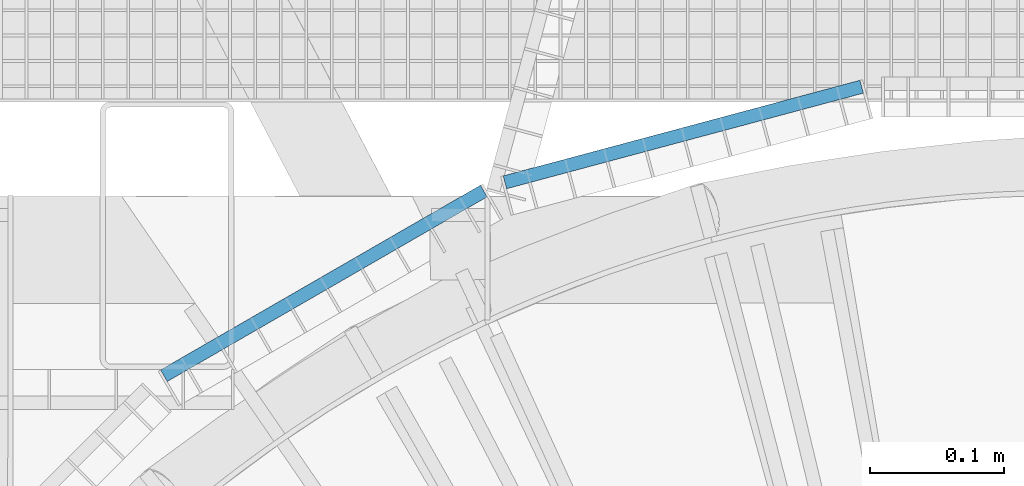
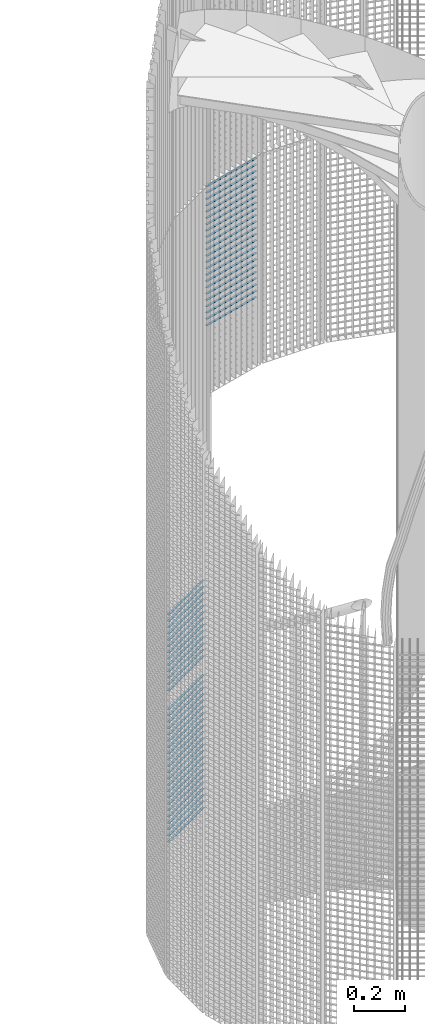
# One storey, part 326 of 1183: 58 beams, 2 elements without a shape of their own.
"""IFC2X3 building model written with IfcOpenShell, lengths in millimetres."""

from ifc_helpers import new_model, si_unit, frame, origin_with_axes, origin_2d_with_axis, place, context, subcontext, project, spatial, rectangle, extrude, material, type_object, element, aggregate, save


model = new_model("IFC2X3")

# Units and contexts
model_context = context("Model", 3, precision=1e-05, world=origin_with_axes())
body_context = subcontext(model_context, "Body", "Model", "MODEL_VIEW")
ifc_project = project(units=[si_unit("LENGTHUNIT", "METRE", prefix="MILLI"), si_unit("AREAUNIT", "SQUARE_METRE"), si_unit("VOLUMEUNIT", "CUBIC_METRE"), si_unit("MASSUNIT", "GRAM", prefix="KILO"), si_unit("TIMEUNIT", "SECOND"), si_unit("PLANEANGLEUNIT", "RADIAN"), si_unit("SOLIDANGLEUNIT", "STERADIAN"), si_unit("THERMODYNAMICTEMPERATUREUNIT", "DEGREE_CELSIUS"), si_unit("LUMINOUSINTENSITYUNIT", "LUMEN")], contexts=[model_context])

# Site, building, storey
site_placement = place(None, origin_with_axes())
site = spatial("IfcSite", under=ifc_project, at=site_placement, Name="Undefined", CompositionType="ELEMENT")
building_placement = place(site_placement, origin_with_axes())
building = spatial("IfcBuilding", under=site, at=building_placement, Name="Undefined", CompositionType="ELEMENT")
storey_placement = place(building_placement, origin_with_axes())
storey = spatial("IfcBuildingStorey", under=building, at=storey_placement, Name="Undefined", CompositionType="ELEMENT", Elevation=0.0)

# Assembly, beams
assembly_1_placement = place(storey_placement, origin_with_axes())
assembly_1 = element("IfcElementAssembly", 1, at=assembly_1_placement, inside=storey, Name="BORDURE", AssemblyPlace="NOTDEFINED", PredefinedType="NOTDEFINED")
ifc_material = material(Name="STEEL/S235JR")
beam_type = type_object("IfcBeamType", Name="PL2*10", PredefinedType="NOTDEFINED")
beam_1_placement = place(assembly_1_placement, frame((-437.231955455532, 1033.29996828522, 749.999999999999), z_axis=(-0.49999999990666, 0.866025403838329, 0.0), x_axis=(-0.866025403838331, -0.499999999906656, 0.0)))
beam_1 = element("IfcBeam", 2, at=beam_1_placement, type_object=beam_type, material=ifc_material, Name="ENTRETOISE", context=body_context, shape_type="SweptSolid", body=[
    extrude(rectangle(XDim=2.0, YDim=10.0, at=origin_2d_with_axis()), frame((275.999999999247, 9.09494701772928e-13, 1.53210777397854e-14), z_axis=(-1.0, 0.0, 0.0), x_axis=(0.0, -1.0, 0.0)), (0.0, 0.0, 1.0), 276.0),
])
beam_2_placement = place(assembly_1_placement, frame((-437.231955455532, 1033.29996828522, 659.999999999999), z_axis=(-0.49999999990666, 0.866025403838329, 0.0), x_axis=(-0.866025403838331, -0.499999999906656, 0.0)))
beam_2 = element("IfcBeam", 3, at=beam_2_placement, type_object=beam_type, material=ifc_material, Name="ENTRETOISE", context=body_context, shape_type="SweptSolid", body=[
    extrude(rectangle(XDim=2.0, YDim=10.0, at=origin_2d_with_axis()), frame((275.999999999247, 9.09494701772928e-13, 1.53210777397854e-14), z_axis=(-1.0, 0.0, 0.0), x_axis=(0.0, -1.0, 0.0)), (0.0, 0.0, 1.0), 276.0),
])
beam_3_placement = place(assembly_1_placement, frame((-437.231955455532, 1033.29996828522, 629.999999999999), z_axis=(-0.49999999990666, 0.866025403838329, 0.0), x_axis=(-0.866025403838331, -0.499999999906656, 0.0)))
beam_3 = element("IfcBeam", 4, at=beam_3_placement, type_object=beam_type, material=ifc_material, Name="ENTRETOISE", context=body_context, shape_type="SweptSolid", body=[
    extrude(rectangle(XDim=2.0, YDim=10.0, at=origin_2d_with_axis()), frame((275.999999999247, 9.09494701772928e-13, 1.53210777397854e-14), z_axis=(-1.0, 0.0, 0.0), x_axis=(0.0, -1.0, 0.0)), (0.0, 0.0, 1.0), 276.0),
])
beam_4_placement = place(assembly_1_placement, frame((-437.231955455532, 1033.29996828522, 779.999999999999), z_axis=(-0.49999999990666, 0.866025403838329, 0.0), x_axis=(-0.866025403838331, -0.499999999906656, 0.0)))
beam_4 = element("IfcBeam", 5, at=beam_4_placement, type_object=beam_type, material=ifc_material, Name="ENTRETOISE", context=body_context, shape_type="SweptSolid", body=[
    extrude(rectangle(XDim=2.0, YDim=10.0, at=origin_2d_with_axis()), frame((275.999999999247, 9.09494701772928e-13, 1.53210777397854e-14), z_axis=(-1.0, 0.0, 0.0), x_axis=(0.0, -1.0, 0.0)), (0.0, 0.0, 1.0), 276.0),
])
beam_5_placement = place(assembly_1_placement, frame((-437.231955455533, 1033.29996828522, 599.999999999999), z_axis=(-0.49999999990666, 0.866025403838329, 0.0), x_axis=(-0.866025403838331, -0.499999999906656, 0.0)))
beam_5 = element("IfcBeam", 6, at=beam_5_placement, type_object=beam_type, material=ifc_material, Name="ENTRETOISE", context=body_context, shape_type="SweptSolid", body=[
    extrude(rectangle(XDim=2.0, YDim=10.0, at=origin_2d_with_axis()), frame((275.999999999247, 9.09494701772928e-13, 1.53210777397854e-14), z_axis=(-1.0, 0.0, 0.0), x_axis=(0.0, -1.0, 0.0)), (0.0, 0.0, 1.0), 276.0),
])
beam_6_placement = place(assembly_1_placement, frame((-437.231955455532, 1033.29996828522, 809.999999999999), z_axis=(-0.49999999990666, 0.866025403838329, 0.0), x_axis=(-0.866025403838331, -0.499999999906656, 0.0)))
beam_6 = element("IfcBeam", 7, at=beam_6_placement, type_object=beam_type, material=ifc_material, Name="ENTRETOISE", context=body_context, shape_type="SweptSolid", body=[
    extrude(rectangle(XDim=2.0, YDim=10.0, at=origin_2d_with_axis()), frame((275.999999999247, 9.09494701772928e-13, 1.53210777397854e-14), z_axis=(-1.0, 0.0, 0.0), x_axis=(0.0, -1.0, 0.0)), (0.0, 0.0, 1.0), 276.0),
])
beam_7_placement = place(assembly_1_placement, frame((-437.231955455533, 1033.29996828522, 569.999999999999), z_axis=(-0.49999999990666, 0.866025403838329, 0.0), x_axis=(-0.866025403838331, -0.499999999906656, 0.0)))
beam_7 = element("IfcBeam", 8, at=beam_7_placement, type_object=beam_type, material=ifc_material, Name="ENTRETOISE", context=body_context, shape_type="SweptSolid", body=[
    extrude(rectangle(XDim=2.0, YDim=10.0, at=origin_2d_with_axis()), frame((275.999999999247, 9.09494701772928e-13, 1.53210777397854e-14), z_axis=(-1.0, 0.0, 0.0), x_axis=(0.0, -1.0, 0.0)), (0.0, 0.0, 1.0), 276.0),
])
beam_8_placement = place(assembly_1_placement, frame((-437.231955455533, 1033.29996828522, 539.999999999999), z_axis=(-0.49999999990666, 0.866025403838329, 0.0), x_axis=(-0.866025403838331, -0.499999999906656, 0.0)))
beam_8 = element("IfcBeam", 9, at=beam_8_placement, type_object=beam_type, material=ifc_material, Name="ENTRETOISE", context=body_context, shape_type="SweptSolid", body=[
    extrude(rectangle(XDim=2.0, YDim=10.0, at=origin_2d_with_axis()), frame((275.999999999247, 9.09494701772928e-13, 1.53210777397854e-14), z_axis=(-1.0, 0.0, 0.0), x_axis=(0.0, -1.0, 0.0)), (0.0, 0.0, 1.0), 276.0),
])
beam_9_placement = place(assembly_1_placement, frame((-437.231955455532, 1033.29996828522, 839.999999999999), z_axis=(-0.49999999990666, 0.866025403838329, 0.0), x_axis=(-0.866025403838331, -0.499999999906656, 0.0)))
beam_9 = element("IfcBeam", 10, at=beam_9_placement, type_object=beam_type, material=ifc_material, Name="ENTRETOISE", context=body_context, shape_type="SweptSolid", body=[
    extrude(rectangle(XDim=2.0, YDim=10.0, at=origin_2d_with_axis()), frame((275.999999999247, 9.09494701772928e-13, 1.53210777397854e-14), z_axis=(-1.0, 0.0, 0.0), x_axis=(0.0, -1.0, 0.0)), (0.0, 0.0, 1.0), 276.0),
])
beam_10_placement = place(assembly_1_placement, frame((-437.231955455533, 1033.29996828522, 509.999999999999), z_axis=(-0.49999999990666, 0.866025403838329, 0.0), x_axis=(-0.866025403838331, -0.499999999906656, 0.0)))
beam_10 = element("IfcBeam", 11, at=beam_10_placement, type_object=beam_type, material=ifc_material, Name="ENTRETOISE", context=body_context, shape_type="SweptSolid", body=[
    extrude(rectangle(XDim=2.0, YDim=10.0, at=origin_2d_with_axis()), frame((275.999999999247, 9.09494701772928e-13, 1.53210777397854e-14), z_axis=(-1.0, 0.0, 0.0), x_axis=(0.0, -1.0, 0.0)), (0.0, 0.0, 1.0), 276.0),
])
beam_11_placement = place(assembly_1_placement, frame((-437.231955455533, 1033.29996828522, 479.999999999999), z_axis=(-0.49999999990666, 0.866025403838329, 0.0), x_axis=(-0.866025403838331, -0.499999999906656, 0.0)))
beam_11 = element("IfcBeam", 12, at=beam_11_placement, type_object=beam_type, material=ifc_material, Name="ENTRETOISE", context=body_context, shape_type="SweptSolid", body=[
    extrude(rectangle(XDim=2.0, YDim=10.0, at=origin_2d_with_axis()), frame((275.999999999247, 9.09494701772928e-13, 1.53210777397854e-14), z_axis=(-1.0, 0.0, 0.0), x_axis=(0.0, -1.0, 0.0)), (0.0, 0.0, 1.0), 276.0),
])
beam_12_placement = place(assembly_1_placement, frame((-437.231955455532, 1033.29996828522, 869.999999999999), z_axis=(-0.49999999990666, 0.866025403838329, 0.0), x_axis=(-0.866025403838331, -0.499999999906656, 0.0)))
beam_12 = element("IfcBeam", 13, at=beam_12_placement, type_object=beam_type, material=ifc_material, Name="ENTRETOISE", context=body_context, shape_type="SweptSolid", body=[
    extrude(rectangle(XDim=2.0, YDim=10.0, at=origin_2d_with_axis()), frame((275.999999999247, 9.09494701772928e-13, 1.53210777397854e-14), z_axis=(-1.0, 0.0, 0.0), x_axis=(0.0, -1.0, 0.0)), (0.0, 0.0, 1.0), 276.0),
])
beam_13_placement = place(assembly_1_placement, frame((-437.231955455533, 1033.29996828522, 449.999999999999), z_axis=(-0.49999999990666, 0.866025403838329, 0.0), x_axis=(-0.866025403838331, -0.499999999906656, 0.0)))
beam_13 = element("IfcBeam", 14, at=beam_13_placement, type_object=beam_type, material=ifc_material, Name="ENTRETOISE", context=body_context, shape_type="SweptSolid", body=[
    extrude(rectangle(XDim=2.0, YDim=10.0, at=origin_2d_with_axis()), frame((275.999999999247, 9.09494701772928e-13, 1.53210777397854e-14), z_axis=(-1.0, 0.0, 0.0), x_axis=(0.0, -1.0, 0.0)), (0.0, 0.0, 1.0), 276.0),
])
beam_14_placement = place(assembly_1_placement, frame((-437.231955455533, 1033.29996828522, 419.999999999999), z_axis=(-0.49999999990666, 0.866025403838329, 0.0), x_axis=(-0.866025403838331, -0.499999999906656, 0.0)))
beam_14 = element("IfcBeam", 15, at=beam_14_placement, type_object=beam_type, material=ifc_material, Name="ENTRETOISE", context=body_context, shape_type="SweptSolid", body=[
    extrude(rectangle(XDim=2.0, YDim=10.0, at=origin_2d_with_axis()), frame((275.999999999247, 9.09494701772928e-13, 1.53210777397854e-14), z_axis=(-1.0, 0.0, 0.0), x_axis=(0.0, -1.0, 0.0)), (0.0, 0.0, 1.0), 276.0),
])
beam_15_placement = place(assembly_1_placement, frame((-437.231955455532, 1033.29996828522, 899.999999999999), z_axis=(-0.49999999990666, 0.866025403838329, 0.0), x_axis=(-0.866025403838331, -0.499999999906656, 0.0)))
beam_15 = element("IfcBeam", 16, at=beam_15_placement, type_object=beam_type, material=ifc_material, Name="ENTRETOISE", context=body_context, shape_type="SweptSolid", body=[
    extrude(rectangle(XDim=2.0, YDim=10.0, at=origin_2d_with_axis()), frame((275.999999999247, 9.09494701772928e-13, 1.53210777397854e-14), z_axis=(-1.0, 0.0, 0.0), x_axis=(0.0, -1.0, 0.0)), (0.0, 0.0, 1.0), 276.0),
])
beam_16_placement = place(assembly_1_placement, frame((-437.231955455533, 1033.29996828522, 389.999999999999), z_axis=(-0.49999999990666, 0.866025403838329, 0.0), x_axis=(-0.866025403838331, -0.499999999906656, 0.0)))
beam_16 = element("IfcBeam", 17, at=beam_16_placement, type_object=beam_type, material=ifc_material, Name="ENTRETOISE", context=body_context, shape_type="SweptSolid", body=[
    extrude(rectangle(XDim=2.0, YDim=10.0, at=origin_2d_with_axis()), frame((275.999999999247, 9.09494701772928e-13, 1.53210777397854e-14), z_axis=(-1.0, 0.0, 0.0), x_axis=(0.0, -1.0, 0.0)), (0.0, 0.0, 1.0), 276.0),
])
beam_17_placement = place(assembly_1_placement, frame((-437.231955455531, 1033.29996828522, 929.999999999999), z_axis=(-0.49999999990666, 0.866025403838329, 0.0), x_axis=(-0.866025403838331, -0.499999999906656, 0.0)))
beam_17 = element("IfcBeam", 18, at=beam_17_placement, type_object=beam_type, material=ifc_material, Name="ENTRETOISE", context=body_context, shape_type="SweptSolid", body=[
    extrude(rectangle(XDim=2.0, YDim=10.0, at=origin_2d_with_axis()), frame((275.999999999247, 9.09494701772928e-13, 1.53210777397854e-14), z_axis=(-1.0, 0.0, 0.0), x_axis=(0.0, -1.0, 0.0)), (0.0, 0.0, 1.0), 276.0),
])
beam_18_placement = place(assembly_1_placement, frame((-437.231955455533, 1033.29996828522, 359.999999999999), z_axis=(-0.49999999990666, 0.866025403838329, 0.0), x_axis=(-0.866025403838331, -0.499999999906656, 0.0)))
beam_18 = element("IfcBeam", 19, at=beam_18_placement, type_object=beam_type, material=ifc_material, Name="ENTRETOISE", context=body_context, shape_type="SweptSolid", body=[
    extrude(rectangle(XDim=2.0, YDim=10.0, at=origin_2d_with_axis()), frame((275.999999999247, 9.09494701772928e-13, 1.53210777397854e-14), z_axis=(-1.0, 0.0, 0.0), x_axis=(0.0, -1.0, 0.0)), (0.0, 0.0, 1.0), 276.0),
])
beam_19_placement = place(assembly_1_placement, frame((-437.231955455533, 1033.29996828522, 329.999999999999), z_axis=(-0.49999999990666, 0.866025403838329, 0.0), x_axis=(-0.866025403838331, -0.499999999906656, 0.0)))
beam_19 = element("IfcBeam", 20, at=beam_19_placement, type_object=beam_type, material=ifc_material, Name="ENTRETOISE", context=body_context, shape_type="SweptSolid", body=[
    extrude(rectangle(XDim=2.0, YDim=10.0, at=origin_2d_with_axis()), frame((275.999999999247, 9.09494701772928e-13, 1.53210777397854e-14), z_axis=(-1.0, 0.0, 0.0), x_axis=(0.0, -1.0, 0.0)), (0.0, 0.0, 1.0), 276.0),
])
beam_20_placement = place(assembly_1_placement, frame((-437.231955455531, 1033.29996828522, 959.999999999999), z_axis=(-0.49999999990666, 0.866025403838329, 0.0), x_axis=(-0.866025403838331, -0.499999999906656, 0.0)))
beam_20 = element("IfcBeam", 21, at=beam_20_placement, type_object=beam_type, material=ifc_material, Name="ENTRETOISE", context=body_context, shape_type="SweptSolid", body=[
    extrude(rectangle(XDim=2.0, YDim=10.0, at=origin_2d_with_axis()), frame((275.999999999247, 9.09494701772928e-13, 1.53210777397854e-14), z_axis=(-1.0, 0.0, 0.0), x_axis=(0.0, -1.0, 0.0)), (0.0, 0.0, 1.0), 276.0),
])
beam_21_placement = place(assembly_1_placement, frame((-437.231955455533, 1033.29996828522, 299.999999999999), z_axis=(-0.49999999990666, 0.866025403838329, 0.0), x_axis=(-0.866025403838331, -0.499999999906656, 0.0)))
beam_21 = element("IfcBeam", 22, at=beam_21_placement, type_object=beam_type, material=ifc_material, Name="ENTRETOISE", context=body_context, shape_type="SweptSolid", body=[
    extrude(rectangle(XDim=2.0, YDim=10.0, at=origin_2d_with_axis()), frame((275.999999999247, 9.09494701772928e-13, 1.53210777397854e-14), z_axis=(-1.0, 0.0, 0.0), x_axis=(0.0, -1.0, 0.0)), (0.0, 0.0, 1.0), 276.0),
])
beam_22_placement = place(assembly_1_placement, frame((-437.231955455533, 1033.29996828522, 269.999999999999), z_axis=(-0.49999999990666, 0.866025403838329, 0.0), x_axis=(-0.866025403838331, -0.499999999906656, 0.0)))
beam_22 = element("IfcBeam", 23, at=beam_22_placement, type_object=beam_type, material=ifc_material, Name="ENTRETOISE", context=body_context, shape_type="SweptSolid", body=[
    extrude(rectangle(XDim=2.0, YDim=10.0, at=origin_2d_with_axis()), frame((275.999999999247, 9.09494701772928e-13, 1.53210777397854e-14), z_axis=(-1.0, 0.0, 0.0), x_axis=(0.0, -1.0, 0.0)), (0.0, 0.0, 1.0), 276.0),
])
beam_23_placement = place(assembly_1_placement, frame((-437.231955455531, 1033.29996828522, 989.999999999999), z_axis=(-0.49999999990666, 0.866025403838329, 0.0), x_axis=(-0.866025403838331, -0.499999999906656, 0.0)))
beam_23 = element("IfcBeam", 24, at=beam_23_placement, type_object=beam_type, material=ifc_material, Name="ENTRETOISE", context=body_context, shape_type="SweptSolid", body=[
    extrude(rectangle(XDim=2.0, YDim=10.0, at=origin_2d_with_axis()), frame((275.999999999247, 9.09494701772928e-13, 1.53210777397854e-14), z_axis=(-1.0, 0.0, 0.0), x_axis=(0.0, -1.0, 0.0)), (0.0, 0.0, 1.0), 276.0),
])
beam_24_placement = place(assembly_1_placement, frame((-437.231955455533, 1033.29996828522, 239.999999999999), z_axis=(-0.49999999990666, 0.866025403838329, 0.0), x_axis=(-0.866025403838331, -0.499999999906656, 0.0)))
beam_24 = element("IfcBeam", 25, at=beam_24_placement, type_object=beam_type, material=ifc_material, Name="ENTRETOISE", context=body_context, shape_type="SweptSolid", body=[
    extrude(rectangle(XDim=2.0, YDim=10.0, at=origin_2d_with_axis()), frame((275.999999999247, 9.09494701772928e-13, 1.53210777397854e-14), z_axis=(-1.0, 0.0, 0.0), x_axis=(0.0, -1.0, 0.0)), (0.0, 0.0, 1.0), 276.0),
])
beam_25_placement = place(assembly_1_placement, frame((-437.231955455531, 1033.29996828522, 1020.0), z_axis=(-0.49999999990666, 0.866025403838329, 0.0), x_axis=(-0.866025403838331, -0.499999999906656, 0.0)))
beam_25 = element("IfcBeam", 26, at=beam_25_placement, type_object=beam_type, material=ifc_material, Name="ENTRETOISE", context=body_context, shape_type="SweptSolid", body=[
    extrude(rectangle(XDim=2.0, YDim=10.0, at=origin_2d_with_axis()), frame((275.999999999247, 9.09494701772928e-13, 1.53210777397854e-14), z_axis=(-1.0, 0.0, 0.0), x_axis=(0.0, -1.0, 0.0)), (0.0, 0.0, 1.0), 276.0),
])
beam_26_placement = place(assembly_1_placement, frame((-437.231955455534, 1033.29996828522, 209.999999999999), z_axis=(-0.49999999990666, 0.866025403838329, 0.0), x_axis=(-0.866025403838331, -0.499999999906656, 0.0)))
beam_26 = element("IfcBeam", 27, at=beam_26_placement, type_object=beam_type, material=ifc_material, Name="ENTRETOISE", context=body_context, shape_type="SweptSolid", body=[
    extrude(rectangle(XDim=2.0, YDim=10.0, at=origin_2d_with_axis()), frame((275.999999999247, 9.09494701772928e-13, 1.53210777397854e-14), z_axis=(-1.0, 0.0, 0.0), x_axis=(0.0, -1.0, 0.0)), (0.0, 0.0, 1.0), 276.0),
])
beam_27_placement = place(assembly_1_placement, frame((-437.231955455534, 1033.29996828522, 179.999999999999), z_axis=(-0.49999999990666, 0.866025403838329, 0.0), x_axis=(-0.866025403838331, -0.499999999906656, 0.0)))
beam_27 = element("IfcBeam", 28, at=beam_27_placement, type_object=beam_type, material=ifc_material, Name="ENTRETOISE", context=body_context, shape_type="SweptSolid", body=[
    extrude(rectangle(XDim=2.0, YDim=10.0, at=origin_2d_with_axis()), frame((275.999999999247, 9.09494701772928e-13, 1.53210777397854e-14), z_axis=(-1.0, 0.0, 0.0), x_axis=(0.0, -1.0, 0.0)), (0.0, 0.0, 1.0), 276.0),
])
beam_28_placement = place(assembly_1_placement, frame((-437.231955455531, 1033.29996828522, 1050.0), z_axis=(-0.49999999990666, 0.866025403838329, 0.0), x_axis=(-0.866025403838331, -0.499999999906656, 0.0)))
beam_28 = element("IfcBeam", 29, at=beam_28_placement, type_object=beam_type, material=ifc_material, Name="ENTRETOISE", context=body_context, shape_type="SweptSolid", body=[
    extrude(rectangle(XDim=2.0, YDim=10.0, at=origin_2d_with_axis()), frame((275.999999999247, 9.09494701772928e-13, 1.53210777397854e-14), z_axis=(-1.0, 0.0, 0.0), x_axis=(0.0, -1.0, 0.0)), (0.0, 0.0, 1.0), 276.0),
])
beam_29_placement = place(assembly_1_placement, frame((-437.231955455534, 1033.29996828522, 149.999999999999), z_axis=(-0.49999999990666, 0.866025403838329, 0.0), x_axis=(-0.866025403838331, -0.499999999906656, 0.0)))
beam_29 = element("IfcBeam", 30, at=beam_29_placement, type_object=beam_type, material=ifc_material, Name="ENTRETOISE", context=body_context, shape_type="SweptSolid", body=[
    extrude(rectangle(XDim=2.0, YDim=10.0, at=origin_2d_with_axis()), frame((275.999999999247, 9.09494701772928e-13, 1.53210777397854e-14), z_axis=(-1.0, 0.0, 0.0), x_axis=(0.0, -1.0, 0.0)), (0.0, 0.0, 1.0), 276.0),
])
beam_30_placement = place(assembly_1_placement, frame((-437.231955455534, 1033.29996828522, 119.999999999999), z_axis=(-0.49999999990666, 0.866025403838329, 0.0), x_axis=(-0.866025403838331, -0.499999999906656, 0.0)))
beam_30 = element("IfcBeam", 31, at=beam_30_placement, type_object=beam_type, material=ifc_material, Name="ENTRETOISE", context=body_context, shape_type="SweptSolid", body=[
    extrude(rectangle(XDim=2.0, YDim=10.0, at=origin_2d_with_axis()), frame((275.999999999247, 9.09494701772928e-13, 1.53210777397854e-14), z_axis=(-1.0, 0.0, 0.0), x_axis=(0.0, -1.0, 0.0)), (0.0, 0.0, 1.0), 276.0),
])
beam_31_placement = place(assembly_1_placement, frame((-437.231955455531, 1033.29996828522, 1080.0), z_axis=(-0.49999999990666, 0.866025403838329, 0.0), x_axis=(-0.866025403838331, -0.499999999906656, 0.0)))
beam_31 = element("IfcBeam", 32, at=beam_31_placement, type_object=beam_type, material=ifc_material, Name="ENTRETOISE", context=body_context, shape_type="SweptSolid", body=[
    extrude(rectangle(XDim=2.0, YDim=10.0, at=origin_2d_with_axis()), frame((275.999999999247, 9.09494701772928e-13, 1.53210777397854e-14), z_axis=(-1.0, 0.0, 0.0), x_axis=(0.0, -1.0, 0.0)), (0.0, 0.0, 1.0), 276.0),
])
beam_32_placement = place(assembly_1_placement, frame((-437.231955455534, 1033.29996828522, 89.9999999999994), z_axis=(-0.49999999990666, 0.866025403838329, 0.0), x_axis=(-0.866025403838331, -0.499999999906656, 0.0)))
beam_32 = element("IfcBeam", 33, at=beam_32_placement, type_object=beam_type, material=ifc_material, Name="ENTRETOISE", context=body_context, shape_type="SweptSolid", body=[
    extrude(rectangle(XDim=2.0, YDim=10.0, at=origin_2d_with_axis()), frame((275.999999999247, 9.09494701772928e-13, 1.53210777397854e-14), z_axis=(-1.0, 0.0, 0.0), x_axis=(0.0, -1.0, 0.0)), (0.0, 0.0, 1.0), 276.0),
])
beam_33_placement = place(assembly_1_placement, frame((-437.231955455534, 1033.29996828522, 59.9999999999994), z_axis=(-0.49999999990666, 0.866025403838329, 0.0), x_axis=(-0.866025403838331, -0.499999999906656, 0.0)))
beam_33 = element("IfcBeam", 34, at=beam_33_placement, type_object=beam_type, material=ifc_material, Name="ENTRETOISE", context=body_context, shape_type="SweptSolid", body=[
    extrude(rectangle(XDim=2.0, YDim=10.0, at=origin_2d_with_axis()), frame((275.999999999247, 9.09494701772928e-13, 1.53210777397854e-14), z_axis=(-1.0, 0.0, 0.0), x_axis=(0.0, -1.0, 0.0)), (0.0, 0.0, 1.0), 276.0),
])
beam_34_placement = place(assembly_1_placement, frame((-437.231955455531, 1033.29996828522, 1110.0), z_axis=(-0.49999999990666, 0.866025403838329, 0.0), x_axis=(-0.866025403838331, -0.499999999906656, 0.0)))
beam_34 = element("IfcBeam", 35, at=beam_34_placement, type_object=beam_type, material=ifc_material, Name="ENTRETOISE", context=body_context, shape_type="SweptSolid", body=[
    extrude(rectangle(XDim=2.0, YDim=10.0, at=origin_2d_with_axis()), frame((275.999999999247, 9.09494701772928e-13, 1.53210777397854e-14), z_axis=(-1.0, 0.0, 0.0), x_axis=(0.0, -1.0, 0.0)), (0.0, 0.0, 1.0), 276.0),
])
beam_35_placement = place(assembly_1_placement, frame((-437.231955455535, 1033.29996828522, 29.9999999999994), z_axis=(-0.49999999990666, 0.866025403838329, 0.0), x_axis=(-0.866025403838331, -0.499999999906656, 0.0)))
beam_35 = element("IfcBeam", 36, at=beam_35_placement, type_object=beam_type, material=ifc_material, Name="ENTRETOISE", context=body_context, shape_type="SweptSolid", body=[
    extrude(rectangle(XDim=2.0, YDim=10.0, at=origin_2d_with_axis()), frame((275.999999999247, 9.09494701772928e-13, 1.53210777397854e-14), z_axis=(-1.0, 0.0, 0.0), x_axis=(0.0, -1.0, 0.0)), (0.0, 0.0, 1.0), 276.0),
])
aggregate(assembly_1, [beam_1, beam_2, beam_3, beam_4, beam_5, beam_6, beam_7, beam_8, beam_9, beam_10, beam_11, beam_12, beam_13, beam_14, beam_15, beam_16, beam_17, beam_18, beam_19, beam_20, beam_21, beam_22, beam_23, beam_24, beam_25, beam_26, beam_27, beam_28, beam_29, beam_30, beam_31, beam_32, beam_33, beam_34, beam_35])

assembly_2_placement = place(storey_placement, origin_with_axes())
assembly_2 = element("IfcElementAssembly", 37, at=assembly_2_placement, inside=storey, Name="BORDURE", AssemblyPlace="NOTDEFINED", PredefinedType="NOTDEFINED")
beam_36_placement = place(assembly_2_placement, frame((-154.895926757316, 1111.25508286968, 2970.0), z_axis=(-0.258819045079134, 0.965925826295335, 0.0), x_axis=(-0.965925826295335, -0.258819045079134, 0.0)))
beam_36 = element("IfcBeam", 38, at=beam_36_placement, type_object=beam_type, material=ifc_material, Name="ENTRETOISE", context=body_context, shape_type="SweptSolid", body=[
    extrude(rectangle(XDim=2.0, YDim=10.0, at=origin_2d_with_axis()), frame((275.999999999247, 9.09494701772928e-13, 1.53210777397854e-14), z_axis=(-1.0, 0.0, 0.0), x_axis=(0.0, -1.0, 0.0)), (0.0, 0.0, 1.0), 276.0),
])
beam_37_placement = place(assembly_2_placement, frame((-154.895926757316, 1111.25508286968, 2940.0), z_axis=(-0.258819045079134, 0.965925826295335, 0.0), x_axis=(-0.965925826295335, -0.258819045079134, 0.0)))
beam_37 = element("IfcBeam", 39, at=beam_37_placement, type_object=beam_type, material=ifc_material, Name="ENTRETOISE", context=body_context, shape_type="SweptSolid", body=[
    extrude(rectangle(XDim=2.0, YDim=10.0, at=origin_2d_with_axis()), frame((275.999999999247, 9.09494701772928e-13, 1.53210777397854e-14), z_axis=(-1.0, 0.0, 0.0), x_axis=(0.0, -1.0, 0.0)), (0.0, 0.0, 1.0), 276.0),
])
beam_38_placement = place(assembly_2_placement, frame((-154.895926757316, 1111.25508286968, 2910.0), z_axis=(-0.258819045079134, 0.965925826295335, 0.0), x_axis=(-0.965925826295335, -0.258819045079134, 0.0)))
beam_38 = element("IfcBeam", 40, at=beam_38_placement, type_object=beam_type, material=ifc_material, Name="ENTRETOISE", context=body_context, shape_type="SweptSolid", body=[
    extrude(rectangle(XDim=2.0, YDim=10.0, at=origin_2d_with_axis()), frame((275.999999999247, 9.09494701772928e-13, 1.53210777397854e-14), z_axis=(-1.0, 0.0, 0.0), x_axis=(0.0, -1.0, 0.0)), (0.0, 0.0, 1.0), 276.0),
])
beam_39_placement = place(assembly_2_placement, frame((-154.895926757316, 1111.25508286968, 2880.0), z_axis=(-0.258819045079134, 0.965925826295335, 0.0), x_axis=(-0.965925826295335, -0.258819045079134, 0.0)))
beam_39 = element("IfcBeam", 41, at=beam_39_placement, type_object=beam_type, material=ifc_material, Name="ENTRETOISE", context=body_context, shape_type="SweptSolid", body=[
    extrude(rectangle(XDim=2.0, YDim=10.0, at=origin_2d_with_axis()), frame((275.999999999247, 9.09494701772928e-13, 1.53210777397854e-14), z_axis=(-1.0, 0.0, 0.0), x_axis=(0.0, -1.0, 0.0)), (0.0, 0.0, 1.0), 276.0),
])
beam_40_placement = place(assembly_2_placement, frame((-154.895926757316, 1111.25508286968, 2850.0), z_axis=(-0.258819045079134, 0.965925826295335, 0.0), x_axis=(-0.965925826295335, -0.258819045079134, 0.0)))
beam_40 = element("IfcBeam", 42, at=beam_40_placement, type_object=beam_type, material=ifc_material, Name="ENTRETOISE", context=body_context, shape_type="SweptSolid", body=[
    extrude(rectangle(XDim=2.0, YDim=10.0, at=origin_2d_with_axis()), frame((275.999999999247, 9.09494701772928e-13, 1.53210777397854e-14), z_axis=(-1.0, 0.0, 0.0), x_axis=(0.0, -1.0, 0.0)), (0.0, 0.0, 1.0), 276.0),
])
beam_41_placement = place(assembly_2_placement, frame((-154.895926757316, 1111.25508286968, 2820.0), z_axis=(-0.258819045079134, 0.965925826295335, 0.0), x_axis=(-0.965925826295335, -0.258819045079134, 0.0)))
beam_41 = element("IfcBeam", 43, at=beam_41_placement, type_object=beam_type, material=ifc_material, Name="ENTRETOISE", context=body_context, shape_type="SweptSolid", body=[
    extrude(rectangle(XDim=2.0, YDim=10.0, at=origin_2d_with_axis()), frame((275.999999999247, 9.09494701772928e-13, 1.53210777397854e-14), z_axis=(-1.0, 0.0, 0.0), x_axis=(0.0, -1.0, 0.0)), (0.0, 0.0, 1.0), 276.0),
])
beam_42_placement = place(assembly_2_placement, frame((-154.895926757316, 1111.25508286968, 2790.0), z_axis=(-0.258819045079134, 0.965925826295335, 0.0), x_axis=(-0.965925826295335, -0.258819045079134, 0.0)))
beam_42 = element("IfcBeam", 44, at=beam_42_placement, type_object=beam_type, material=ifc_material, Name="ENTRETOISE", context=body_context, shape_type="SweptSolid", body=[
    extrude(rectangle(XDim=2.0, YDim=10.0, at=origin_2d_with_axis()), frame((275.999999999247, 9.09494701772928e-13, 1.53210777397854e-14), z_axis=(-1.0, 0.0, 0.0), x_axis=(0.0, -1.0, 0.0)), (0.0, 0.0, 1.0), 276.0),
])
beam_43_placement = place(assembly_2_placement, frame((-154.895926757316, 1111.25508286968, 2760.0), z_axis=(-0.258819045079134, 0.965925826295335, 0.0), x_axis=(-0.965925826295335, -0.258819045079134, 0.0)))
beam_43 = element("IfcBeam", 45, at=beam_43_placement, type_object=beam_type, material=ifc_material, Name="ENTRETOISE", context=body_context, shape_type="SweptSolid", body=[
    extrude(rectangle(XDim=2.0, YDim=10.0, at=origin_2d_with_axis()), frame((275.999999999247, 9.09494701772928e-13, 1.53210777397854e-14), z_axis=(-1.0, 0.0, 0.0), x_axis=(0.0, -1.0, 0.0)), (0.0, 0.0, 1.0), 276.0),
])
beam_44_placement = place(assembly_2_placement, frame((-154.895926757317, 1111.25508286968, 2730.0), z_axis=(-0.258819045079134, 0.965925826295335, 0.0), x_axis=(-0.965925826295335, -0.258819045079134, 0.0)))
beam_44 = element("IfcBeam", 46, at=beam_44_placement, type_object=beam_type, material=ifc_material, Name="ENTRETOISE", context=body_context, shape_type="SweptSolid", body=[
    extrude(rectangle(XDim=2.0, YDim=10.0, at=origin_2d_with_axis()), frame((275.999999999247, 9.09494701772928e-13, 1.53210777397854e-14), z_axis=(-1.0, 0.0, 0.0), x_axis=(0.0, -1.0, 0.0)), (0.0, 0.0, 1.0), 276.0),
])
beam_45_placement = place(assembly_2_placement, frame((-154.895926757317, 1111.25508286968, 2700.0), z_axis=(-0.258819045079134, 0.965925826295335, 0.0), x_axis=(-0.965925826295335, -0.258819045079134, 0.0)))
beam_45 = element("IfcBeam", 47, at=beam_45_placement, type_object=beam_type, material=ifc_material, Name="ENTRETOISE", context=body_context, shape_type="SweptSolid", body=[
    extrude(rectangle(XDim=2.0, YDim=10.0, at=origin_2d_with_axis()), frame((275.999999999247, 9.09494701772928e-13, 1.53210777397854e-14), z_axis=(-1.0, 0.0, 0.0), x_axis=(0.0, -1.0, 0.0)), (0.0, 0.0, 1.0), 276.0),
])
beam_46_placement = place(assembly_2_placement, frame((-154.895926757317, 1111.25508286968, 2670.0), z_axis=(-0.258819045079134, 0.965925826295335, 0.0), x_axis=(-0.965925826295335, -0.258819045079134, 0.0)))
beam_46 = element("IfcBeam", 48, at=beam_46_placement, type_object=beam_type, material=ifc_material, Name="ENTRETOISE", context=body_context, shape_type="SweptSolid", body=[
    extrude(rectangle(XDim=2.0, YDim=10.0, at=origin_2d_with_axis()), frame((275.999999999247, 9.09494701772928e-13, 1.53210777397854e-14), z_axis=(-1.0, 0.0, 0.0), x_axis=(0.0, -1.0, 0.0)), (0.0, 0.0, 1.0), 276.0),
])
beam_47_placement = place(assembly_2_placement, frame((-154.895926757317, 1111.25508286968, 2640.0), z_axis=(-0.258819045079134, 0.965925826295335, 0.0), x_axis=(-0.965925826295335, -0.258819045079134, 0.0)))
beam_47 = element("IfcBeam", 49, at=beam_47_placement, type_object=beam_type, material=ifc_material, Name="ENTRETOISE", context=body_context, shape_type="SweptSolid", body=[
    extrude(rectangle(XDim=2.0, YDim=10.0, at=origin_2d_with_axis()), frame((275.999999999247, 9.09494701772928e-13, 1.53210777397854e-14), z_axis=(-1.0, 0.0, 0.0), x_axis=(0.0, -1.0, 0.0)), (0.0, 0.0, 1.0), 276.0),
])
beam_48_placement = place(assembly_2_placement, frame((-154.895926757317, 1111.25508286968, 2610.0), z_axis=(-0.258819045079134, 0.965925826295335, 0.0), x_axis=(-0.965925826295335, -0.258819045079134, 0.0)))
beam_48 = element("IfcBeam", 50, at=beam_48_placement, type_object=beam_type, material=ifc_material, Name="ENTRETOISE", context=body_context, shape_type="SweptSolid", body=[
    extrude(rectangle(XDim=2.0, YDim=10.0, at=origin_2d_with_axis()), frame((275.999999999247, 9.09494701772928e-13, 1.53210777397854e-14), z_axis=(-1.0, 0.0, 0.0), x_axis=(0.0, -1.0, 0.0)), (0.0, 0.0, 1.0), 276.0),
])
beam_49_placement = place(assembly_2_placement, frame((-154.895926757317, 1111.25508286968, 2580.0), z_axis=(-0.258819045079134, 0.965925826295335, 0.0), x_axis=(-0.965925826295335, -0.258819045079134, 0.0)))
beam_49 = element("IfcBeam", 51, at=beam_49_placement, type_object=beam_type, material=ifc_material, Name="ENTRETOISE", context=body_context, shape_type="SweptSolid", body=[
    extrude(rectangle(XDim=2.0, YDim=10.0, at=origin_2d_with_axis()), frame((275.999999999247, 9.09494701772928e-13, 1.53210777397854e-14), z_axis=(-1.0, 0.0, 0.0), x_axis=(0.0, -1.0, 0.0)), (0.0, 0.0, 1.0), 276.0),
])
beam_50_placement = place(assembly_2_placement, frame((-154.895926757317, 1111.25508286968, 2550.0), z_axis=(-0.258819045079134, 0.965925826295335, 0.0), x_axis=(-0.965925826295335, -0.258819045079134, 0.0)))
beam_50 = element("IfcBeam", 52, at=beam_50_placement, type_object=beam_type, material=ifc_material, Name="ENTRETOISE", context=body_context, shape_type="SweptSolid", body=[
    extrude(rectangle(XDim=2.0, YDim=10.0, at=origin_2d_with_axis()), frame((275.999999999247, 9.09494701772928e-13, 1.53210777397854e-14), z_axis=(-1.0, 0.0, 0.0), x_axis=(0.0, -1.0, 0.0)), (0.0, 0.0, 1.0), 276.0),
])
beam_51_placement = place(assembly_2_placement, frame((-154.895926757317, 1111.25508286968, 2520.0), z_axis=(-0.258819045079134, 0.965925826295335, 0.0), x_axis=(-0.965925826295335, -0.258819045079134, 0.0)))
beam_51 = element("IfcBeam", 53, at=beam_51_placement, type_object=beam_type, material=ifc_material, Name="ENTRETOISE", context=body_context, shape_type="SweptSolid", body=[
    extrude(rectangle(XDim=2.0, YDim=10.0, at=origin_2d_with_axis()), frame((275.999999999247, 9.09494701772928e-13, 1.53210777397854e-14), z_axis=(-1.0, 0.0, 0.0), x_axis=(0.0, -1.0, 0.0)), (0.0, 0.0, 1.0), 276.0),
])
beam_52_placement = place(assembly_2_placement, frame((-154.895926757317, 1111.25508286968, 2490.0), z_axis=(-0.258819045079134, 0.965925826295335, 0.0), x_axis=(-0.965925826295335, -0.258819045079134, 0.0)))
beam_52 = element("IfcBeam", 54, at=beam_52_placement, type_object=beam_type, material=ifc_material, Name="ENTRETOISE", context=body_context, shape_type="SweptSolid", body=[
    extrude(rectangle(XDim=2.0, YDim=10.0, at=origin_2d_with_axis()), frame((275.999999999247, 9.09494701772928e-13, 1.53210777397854e-14), z_axis=(-1.0, 0.0, 0.0), x_axis=(0.0, -1.0, 0.0)), (0.0, 0.0, 1.0), 276.0),
])
beam_53_placement = place(assembly_2_placement, frame((-154.895926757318, 1111.25508286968, 2460.0), z_axis=(-0.258819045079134, 0.965925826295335, 0.0), x_axis=(-0.965925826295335, -0.258819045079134, 0.0)))
beam_53 = element("IfcBeam", 55, at=beam_53_placement, type_object=beam_type, material=ifc_material, Name="ENTRETOISE", context=body_context, shape_type="SweptSolid", body=[
    extrude(rectangle(XDim=2.0, YDim=10.0, at=origin_2d_with_axis()), frame((275.999999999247, 9.09494701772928e-13, 1.53210777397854e-14), z_axis=(-1.0, 0.0, 0.0), x_axis=(0.0, -1.0, 0.0)), (0.0, 0.0, 1.0), 276.0),
])
beam_54_placement = place(assembly_2_placement, frame((-154.895926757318, 1111.25508286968, 2430.0), z_axis=(-0.258819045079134, 0.965925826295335, 0.0), x_axis=(-0.965925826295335, -0.258819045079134, 0.0)))
beam_54 = element("IfcBeam", 56, at=beam_54_placement, type_object=beam_type, material=ifc_material, Name="ENTRETOISE", context=body_context, shape_type="SweptSolid", body=[
    extrude(rectangle(XDim=2.0, YDim=10.0, at=origin_2d_with_axis()), frame((275.999999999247, 9.09494701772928e-13, 1.53210777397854e-14), z_axis=(-1.0, 0.0, 0.0), x_axis=(0.0, -1.0, 0.0)), (0.0, 0.0, 1.0), 276.0),
])
beam_55_placement = place(assembly_2_placement, frame((-154.895926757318, 1111.25508286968, 2400.0), z_axis=(-0.258819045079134, 0.965925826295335, 0.0), x_axis=(-0.965925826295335, -0.258819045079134, 0.0)))
beam_55 = element("IfcBeam", 57, at=beam_55_placement, type_object=beam_type, material=ifc_material, Name="ENTRETOISE", context=body_context, shape_type="SweptSolid", body=[
    extrude(rectangle(XDim=2.0, YDim=10.0, at=origin_2d_with_axis()), frame((275.999999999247, 9.09494701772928e-13, 1.53210777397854e-14), z_axis=(-1.0, 0.0, 0.0), x_axis=(0.0, -1.0, 0.0)), (0.0, 0.0, 1.0), 276.0),
])
beam_56_placement = place(assembly_2_placement, frame((-154.895926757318, 1111.25508286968, 2370.0), z_axis=(-0.258819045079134, 0.965925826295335, 0.0), x_axis=(-0.965925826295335, -0.258819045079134, 0.0)))
beam_56 = element("IfcBeam", 58, at=beam_56_placement, type_object=beam_type, material=ifc_material, Name="ENTRETOISE", context=body_context, shape_type="SweptSolid", body=[
    extrude(rectangle(XDim=2.0, YDim=10.0, at=origin_2d_with_axis()), frame((275.999999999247, 9.09494701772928e-13, 1.53210777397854e-14), z_axis=(-1.0, 0.0, 0.0), x_axis=(0.0, -1.0, 0.0)), (0.0, 0.0, 1.0), 276.0),
])
beam_57_placement = place(assembly_2_placement, frame((-154.895926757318, 1111.25508286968, 2340.0), z_axis=(-0.258819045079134, 0.965925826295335, 0.0), x_axis=(-0.965925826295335, -0.258819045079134, 0.0)))
beam_57 = element("IfcBeam", 59, at=beam_57_placement, type_object=beam_type, material=ifc_material, Name="ENTRETOISE", context=body_context, shape_type="SweptSolid", body=[
    extrude(rectangle(XDim=2.0, YDim=10.0, at=origin_2d_with_axis()), frame((275.999999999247, 9.09494701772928e-13, 1.53210777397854e-14), z_axis=(-1.0, 0.0, 0.0), x_axis=(0.0, -1.0, 0.0)), (0.0, 0.0, 1.0), 276.0),
])
beam_58_placement = place(assembly_2_placement, frame((-154.895926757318, 1111.25508286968, 2310.0), z_axis=(-0.258819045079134, 0.965925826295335, 0.0), x_axis=(-0.965925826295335, -0.258819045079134, 0.0)))
beam_58 = element("IfcBeam", 60, at=beam_58_placement, type_object=beam_type, material=ifc_material, Name="ENTRETOISE", context=body_context, shape_type="SweptSolid", body=[
    extrude(rectangle(XDim=2.0, YDim=10.0, at=origin_2d_with_axis()), frame((275.999999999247, 9.09494701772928e-13, 1.53210777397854e-14), z_axis=(-1.0, 0.0, 0.0), x_axis=(0.0, -1.0, 0.0)), (0.0, 0.0, 1.0), 276.0),
])
aggregate(assembly_2, [beam_36, beam_37, beam_38, beam_39, beam_40, beam_41, beam_42, beam_43, beam_44, beam_45, beam_46, beam_47, beam_48, beam_49, beam_50, beam_51, beam_52, beam_53, beam_54, beam_55, beam_56, beam_57, beam_58])

save(model, "model.ifc")
